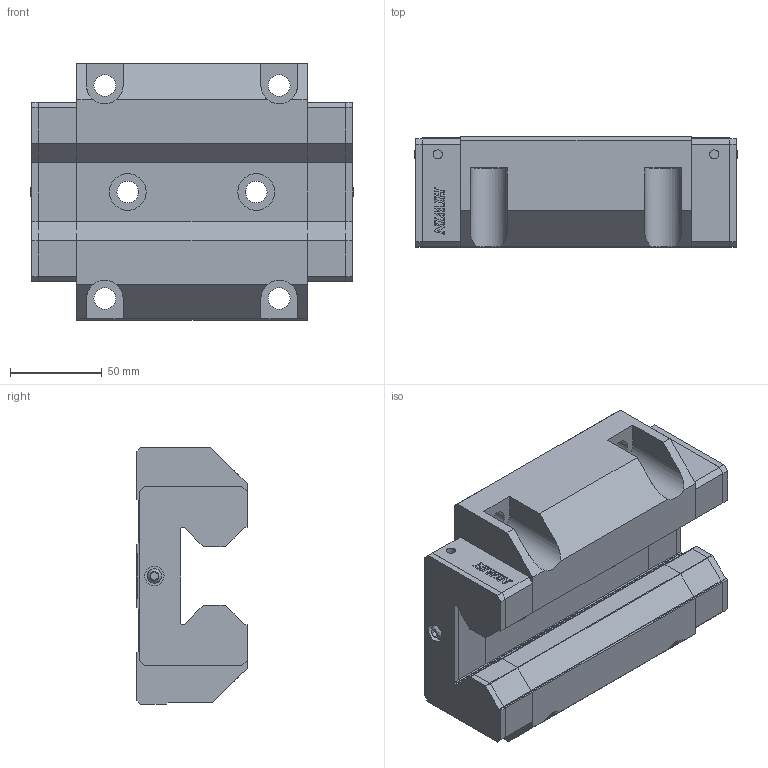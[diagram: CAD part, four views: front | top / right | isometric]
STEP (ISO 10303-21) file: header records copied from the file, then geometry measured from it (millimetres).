
FILE_DESCRIPTION(/* description */ (''),/* implementation_level */ '2;1');
FILE_NAME(/* name */ 'URW55CCZAH_GW202603049638.stp',/* time_stamp */ '2026-03-30T23:02:38+08:00',/* author */ ('User'),/* organization */ (''),/* preprocessor_version */ 'ST-DEVELOPER v20.1',/* originating_system */ 'Autodesk Inventor 2026',/* authorisation */ '');
FILE_SCHEMA (('AUTOMOTIVE_DESIGN { 1 0 10303 214 3 1 1 }'));
Products named in the file (3): URW55CCZAH_GW202603049638; URW55C_左封; 31010069
Assembly tree (3 placements, depth 2):
  URW55CCZAH_GW202603049638
    URW55C_左封
    31010069  x2
Bounding box: 175.9 x 60 x 140 mm (x, y, z)
Volume: 957481.5 mm3; surface area: 135583.6 mm2
Topology: 7 solids, 7 shells, 534 faces, 1476 edges, 982 vertices
Faces by surface type: plane 392, cylinder 140, bspline 2
Full cylindrical faces by diameter (mm): 1.5 x2, 4.917 x4, 6 x2, 6.5 x2, 8 x2, 10.3 x2, 10.5 x2, 11.835 x6, 20 x2
Entity records: 16793 total; most frequent: CARTESIAN_POINT 2968, ORIENTED_EDGE 2900, DIRECTION 2788, EDGE_CURVE 1450, LINE 1164, VECTOR 1164, VERTEX_POINT 965, AXIS2_PLACEMENT_3D 812
